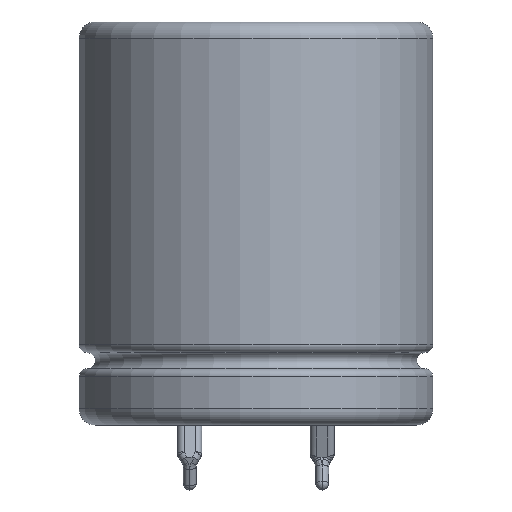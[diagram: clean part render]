
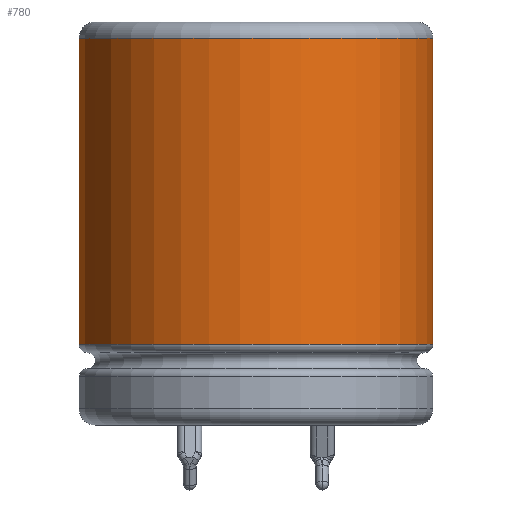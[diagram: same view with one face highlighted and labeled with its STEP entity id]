
A CAD part, left-side view. The second image highlights one B-rep face of the part: STEP entity #780.
In plain terms, the highlighted cylindrical face has radius 11 mm (diameter 22 mm), a partial arc.
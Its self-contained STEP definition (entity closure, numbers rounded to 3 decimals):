
#780=ADVANCED_FACE('',(#1064),#988,.T.);
#988=CYLINDRICAL_SURFACE('',#3980,11.);
#1064=FACE_OUTER_BOUND('',#1259,.T.);
#1259=EDGE_LOOP('',(#1989,#1990,#1991,#1992));
#1481=LINE('',#5546,#1735);
#1482=LINE('',#5550,#1736);
#1735=VECTOR('',#4418,1.);
#1736=VECTOR('',#4421,1.);
#1989=ORIENTED_EDGE('',*,*,#3287,.F.);
#1990=ORIENTED_EDGE('',*,*,#3288,.F.);
#1991=ORIENTED_EDGE('',*,*,#3289,.T.);
#1992=ORIENTED_EDGE('',*,*,#3290,.T.);
#2977=VERTEX_POINT('',#5544);
#2978=VERTEX_POINT('',#5545);
#2979=VERTEX_POINT('',#5547);
#2980=VERTEX_POINT('',#5549);
#3287=EDGE_CURVE('',#2977,#2978,#3781,.T.);
#3288=EDGE_CURVE('',#2979,#2977,#1481,.T.);
#3289=EDGE_CURVE('',#2979,#2980,#3782,.T.);
#3290=EDGE_CURVE('',#2980,#2978,#1482,.T.);
#3781=CIRCLE('',#3978,11.);
#3782=CIRCLE('',#3979,11.);
#3978=AXIS2_PLACEMENT_3D('',#5543,#4416,#4417);
#3979=AXIS2_PLACEMENT_3D('',#5548,#4419,#4420);
#3980=AXIS2_PLACEMENT_3D('',#5551,#4422,#4423);
#4416=DIRECTION('',(0.,0.,-1.));
#4417=DIRECTION('',(-1.,0.,0.));
#4418=DIRECTION('',(0.,0.,-1.));
#4419=DIRECTION('',(0.,0.,-1.));
#4420=DIRECTION('',(-1.,0.,0.));
#4421=DIRECTION('',(0.,0.,-1.));
#4422=DIRECTION('',(0.,0.,-1.));
#4423=DIRECTION('',(-1.,0.,0.));
#5543=CARTESIAN_POINT('',(0.,0.,5.));
#5544=CARTESIAN_POINT('',(4.474,-10.049,5.));
#5545=CARTESIAN_POINT('',(10.049,-4.474,5.));
#5546=CARTESIAN_POINT('',(4.474,-10.049,24.));
#5547=CARTESIAN_POINT('',(4.474,-10.049,24.));
#5548=CARTESIAN_POINT('',(0.,0.,24.));
#5549=CARTESIAN_POINT('',(10.049,-4.474,24.));
#5550=CARTESIAN_POINT('',(10.049,-4.474,24.));
#5551=CARTESIAN_POINT('',(0.,0.,0.));
